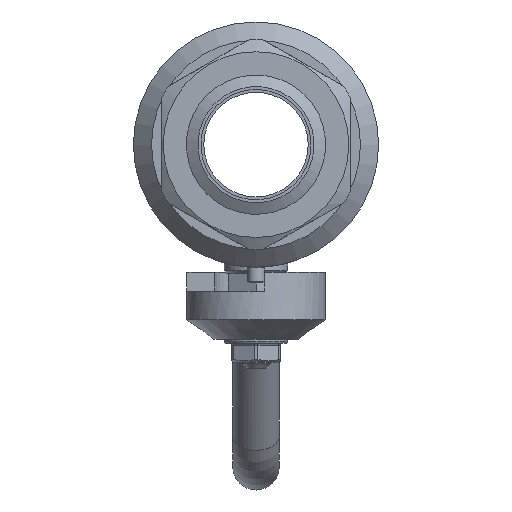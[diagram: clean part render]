
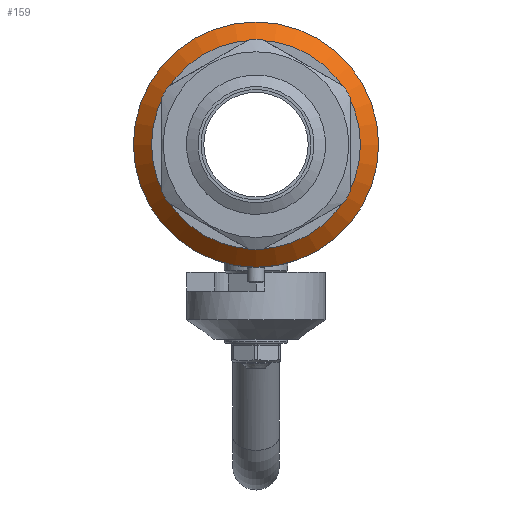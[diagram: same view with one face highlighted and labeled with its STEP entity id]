
A CAD part, left-side view. The second image highlights one B-rep face of the part: STEP entity #159.
In plain terms, the highlighted conical face has half-angle 45 degrees and reference radius 39.125 mm.
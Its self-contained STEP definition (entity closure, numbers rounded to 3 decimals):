
#159=ADVANCED_FACE('',(#1401),#1403,.T.);
#1401=FACE_OUTER_BOUND('',#1402,.T.);
#1402=EDGE_LOOP('',(#2705,#2706,#2707,#2708,#2709));
#1403=CONICAL_SURFACE('',#1404,39.125,0.785);
#1404=AXIS2_PLACEMENT_3D('',#1405,#1406,#1407);
#1405=CARTESIAN_POINT('',(-25.875,0.,0.));
#1406=DIRECTION('',(1.,0.,0.));
#1407=DIRECTION('',(0.,1.,0.));
#2705=ORIENTED_EDGE('',*,*,#4026,.F.);
#2706=ORIENTED_EDGE('',*,*,#4027,.T.);
#2707=ORIENTED_EDGE('',*,*,#4022,.T.);
#2708=ORIENTED_EDGE('',*,*,#4027,.F.);
#2709=ORIENTED_EDGE('',*,*,#4028,.F.);
#4022=EDGE_CURVE('',#4517,#4517,#4519,.T.);
#4026=EDGE_CURVE('',#4525,#4526,#4527,.T.);
#4027=EDGE_CURVE('',#4525,#4517,#4528,.T.);
#4028=EDGE_CURVE('',#4526,#4525,#4529,.T.);
#4517=VERTEX_POINT('',#6588);
#4519=CIRCLE('',#6592,42.25);
#4525=VERTEX_POINT('',#6609);
#4526=VERTEX_POINT('',#6610);
#4527=CIRCLE('',#6611,36.);
#4528=LINE('',#6615,#6616);
#4529=CIRCLE('',#6618,36.);
#6588=CARTESIAN_POINT('',(-22.75,-42.25,0.));
#6592=AXIS2_PLACEMENT_3D('',#6593,#6594,#6595);
#6593=CARTESIAN_POINT('',(-22.75,0.,0.));
#6594=DIRECTION('',(-1.,0.,0.));
#6595=DIRECTION('',(0.,-1.,0.));
#6609=CARTESIAN_POINT('',(-29.,-36.,0.));
#6610=CARTESIAN_POINT('',(-29.,-31.177,-18.));
#6611=AXIS2_PLACEMENT_3D('',#6612,#6613,#6614);
#6612=CARTESIAN_POINT('',(-29.,0.,0.));
#6613=DIRECTION('',(-1.,0.,0.));
#6614=DIRECTION('',(0.,-1.,0.));
#6615=CARTESIAN_POINT('',(-29.,-36.,0.));
#6616=VECTOR('',#6617,1.);
#6617=DIRECTION('',(0.707,-0.707,0.));
#6618=AXIS2_PLACEMENT_3D('',#6619,#6620,#6621);
#6619=CARTESIAN_POINT('',(-29.,0.,0.));
#6620=DIRECTION('',(-1.,0.,0.));
#6621=DIRECTION('',(0.,-0.866,-0.5));
